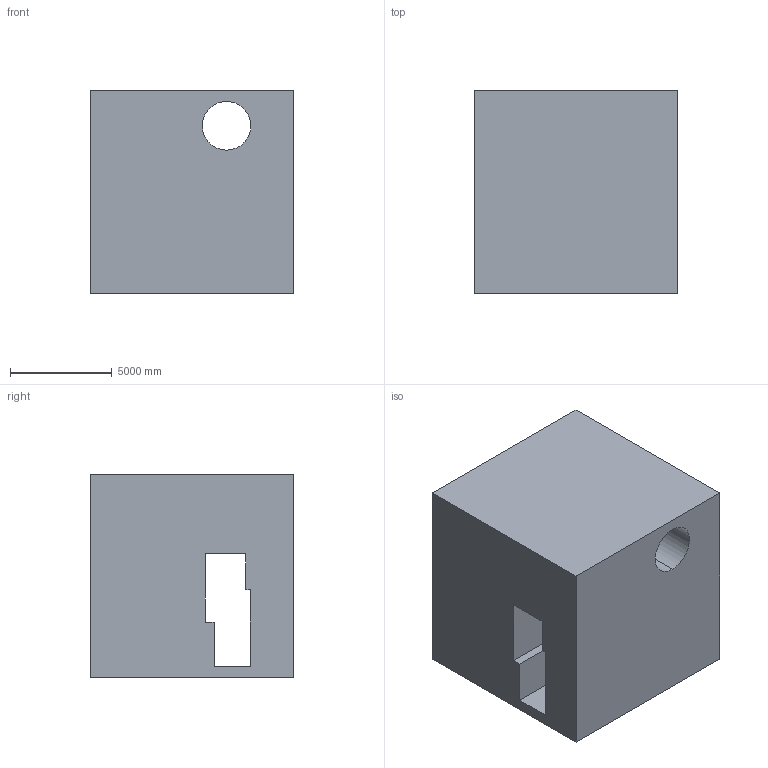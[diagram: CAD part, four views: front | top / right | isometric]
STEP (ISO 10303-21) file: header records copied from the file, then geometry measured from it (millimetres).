
FILE_DESCRIPTION (( 'STEP AP203' ), '1' );
FILE_NAME ('1230.STEP', '2022-08-18T13:17:53', ( 'user' ), ( '' ), 'SwSTEP 2.0', 'SolidWorks 2021', '' );
FILE_SCHEMA (( 'CONFIG_CONTROL_DESIGN' ));
Length unit declared in the file: centimetre
Products named in the file (1): 1230
Bounding box: 10000 x 10000 x 10000 mm (x, y, z)
Volume: 845769319646.2 mm3; surface area: 799480221.3 mm2
Topology: 1 solids, 1 shells, 16 faces, 42 edges, 28 vertices
Faces by surface type: plane 14, cylinder 2
Entity records: 575 total; most frequent: CARTESIAN_POINT 87, ORIENTED_EDGE 84, DIRECTION 80, EDGE_CURVE 42, VECTOR 38, LINE 38, VERTEX_POINT 28, AXIS2_PLACEMENT_3D 21
